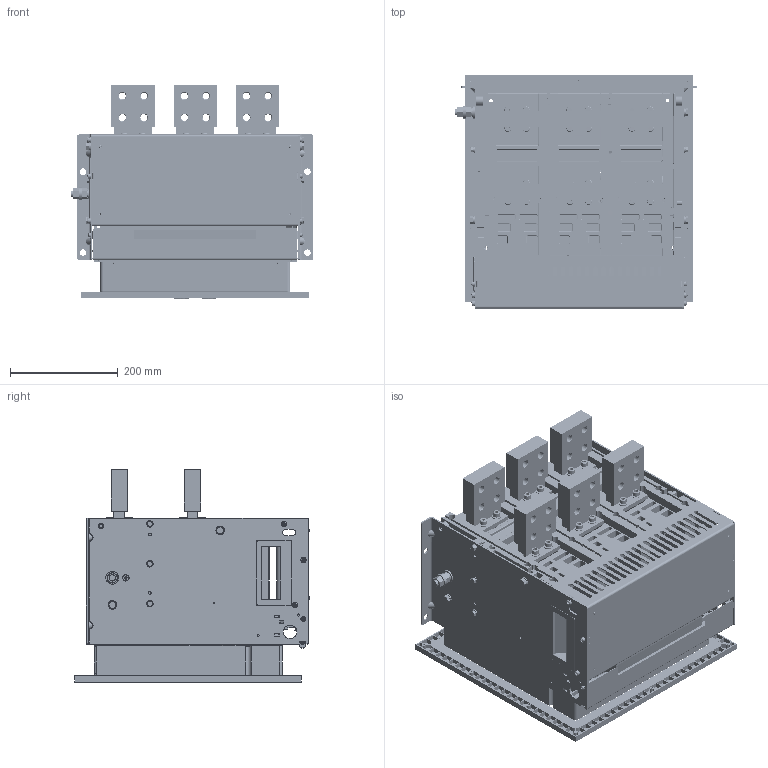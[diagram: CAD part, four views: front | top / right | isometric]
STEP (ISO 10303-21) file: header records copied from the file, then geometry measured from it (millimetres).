
FILE_DESCRIPTION (( 'STEP AP214' ), '1' );
FILE_NAME ('TEW5-4000 F 3P.STEP', '2026-04-03T11:40:42', ( '' ), ( '' ), 'SwSTEP 2.0', 'SolidWorks 2024', '' );
FILE_SCHEMA (( 'AUTOMOTIVE_DESIGN' ));
Products named in the file (1): TEW5-4000 F 3P
Bounding box: 450 x 434.17 x 395.9 mm (x, y, z)
Surface area: 2172803.6 mm2 (no closed solid volume)
Topology: 0 solids, 263 shells, 3332 faces, 12695 edges, 9309 vertices
Faces by surface type: plane 1761, cylinder 1043, cone 265, torus 129, bspline 108, sphere 26
Entity records: 159584 total; most frequent: CARTESIAN_POINT 55093, DIRECTION 21534, ORIENTED_EDGE 18776, EDGE_CURVE 12691, VERTEX_POINT 9309, LINE 7890, VECTOR 7890, AXIS2_PLACEMENT_3D 6822
